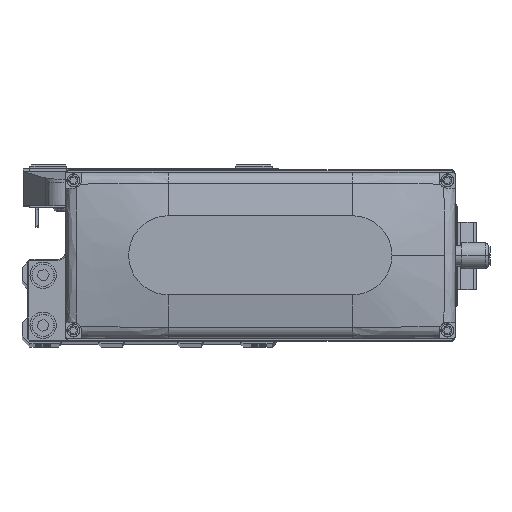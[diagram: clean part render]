
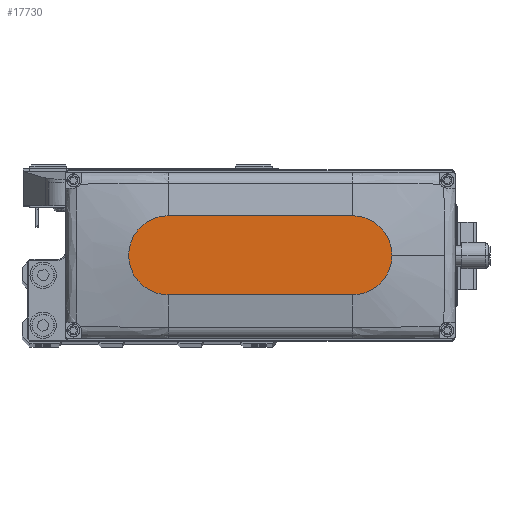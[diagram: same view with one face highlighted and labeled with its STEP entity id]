
A CAD part, top view. The second image highlights one B-rep face of the part: STEP entity #17730.
In plain terms, the highlighted planar face has unit normal (0, 0, 1).
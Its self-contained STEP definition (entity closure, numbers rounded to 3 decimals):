
#2100 = CARTESIAN_POINT ( 'NONE',  ( -35., 15., 35. ) ) ;
#2610 = VECTOR ( 'NONE', #33484, 1000. ) ;
#4168 = EDGE_CURVE ( 'NONE', #10960, #18946, #34118, .T. ) ;
#4984 = LINE ( 'NONE', #19245, #2610 ) ;
#5758 = CIRCLE ( 'NONE', #31893, 15. ) ;
#7719 = VERTEX_POINT ( 'NONE', #33475 ) ;
#10927 = EDGE_CURVE ( 'NONE', #7719, #42104, #4984, .T. ) ;
#10960 = VERTEX_POINT ( 'NONE', #30201 ) ;
#11657 = ORIENTED_EDGE ( 'NONE', *, *, #39398, .T. ) ;
#12008 = DIRECTION ( 'NONE',  ( 0., 0., 1. ) ) ;
#14170 = CARTESIAN_POINT ( 'NONE',  ( 0., 0., 35. ) ) ;
#15351 = CARTESIAN_POINT ( 'NONE',  ( 35., 0., 35. ) ) ;
#16362 = DIRECTION ( 'NONE',  ( -1., 0., 0. ) ) ;
#16401 = CARTESIAN_POINT ( 'NONE',  ( -35., 0., 35. ) ) ;
#17730 = ADVANCED_FACE ( 'NONE', ( #31932 ), #46185, .T. ) ;
#18138 = VECTOR ( 'NONE', #16362, 1000. ) ;
#18895 = ORIENTED_EDGE ( 'NONE', *, *, #42232, .T. ) ;
#18946 = VERTEX_POINT ( 'NONE', #45537 ) ;
#19245 = CARTESIAN_POINT ( 'NONE',  ( -35., -15., 35. ) ) ;
#19699 = CIRCLE ( 'NONE', #45824, 15. ) ;
#20730 = ORIENTED_EDGE ( 'NONE', *, *, #10927, .T. ) ;
#21632 = ORIENTED_EDGE ( 'NONE', *, *, #45389, .T. ) ;
#24199 = AXIS2_PLACEMENT_3D ( 'NONE', #15351, #29604, #43874 ) ;
#26263 = DIRECTION ( 'NONE',  ( 1., 0., 0. ) ) ;
#28415 = DIRECTION ( 'NONE',  ( 0., 0., 1. ) ) ;
#29604 = DIRECTION ( 'NONE',  ( 0., 0., 1. ) ) ;
#30201 = CARTESIAN_POINT ( 'NONE',  ( 35., 15., 35. ) ) ;
#30646 = DIRECTION ( 'NONE',  ( 0., 0., 1. ) ) ;
#30739 = VERTEX_POINT ( 'NONE', #45729 ) ;
#31461 = ORIENTED_EDGE ( 'NONE', *, *, #4168, .T. ) ;
#31893 = AXIS2_PLACEMENT_3D ( 'NONE', #16401, #30646, #44901 ) ;
#31932 = FACE_OUTER_BOUND ( 'NONE', #45396, .T. ) ;
#33475 = CARTESIAN_POINT ( 'NONE',  ( -35., -15., 35. ) ) ;
#33484 = DIRECTION ( 'NONE',  ( 1., 0., 0. ) ) ;
#34118 = LINE ( 'NONE', #2100, #18138 ) ;
#39369 = CARTESIAN_POINT ( 'NONE',  ( 35., -15., 35. ) ) ;
#39398 = EDGE_CURVE ( 'NONE', #42104, #30739, #44348, .T. ) ;
#42104 = VERTEX_POINT ( 'NONE', #39369 ) ;
#42232 = EDGE_CURVE ( 'NONE', #30739, #10960, #19699, .T. ) ;
#42667 = DIRECTION ( 'NONE',  ( 1., 0., 0. ) ) ;
#43874 = DIRECTION ( 'NONE',  ( 1., 0., 0. ) ) ;
#44030 = CARTESIAN_POINT ( 'NONE',  ( 35., 0., 35. ) ) ;
#44348 = CIRCLE ( 'NONE', #24199, 15. ) ;
#44386 = AXIS2_PLACEMENT_3D ( 'NONE', #14170, #28415, #42667 ) ;
#44901 = DIRECTION ( 'NONE',  ( 1., 0., 0. ) ) ;
#45389 = EDGE_CURVE ( 'NONE', #18946, #7719, #5758, .T. ) ;
#45396 = EDGE_LOOP ( 'NONE', ( #31461, #21632, #20730, #11657, #18895 ) ) ;
#45537 = CARTESIAN_POINT ( 'NONE',  ( -35., 15., 35. ) ) ;
#45729 = CARTESIAN_POINT ( 'NONE',  ( 50., 0., 35. ) ) ;
#45824 = AXIS2_PLACEMENT_3D ( 'NONE', #44030, #12008, #26263 ) ;
#46185 = PLANE ( 'NONE',  #44386 ) ;
